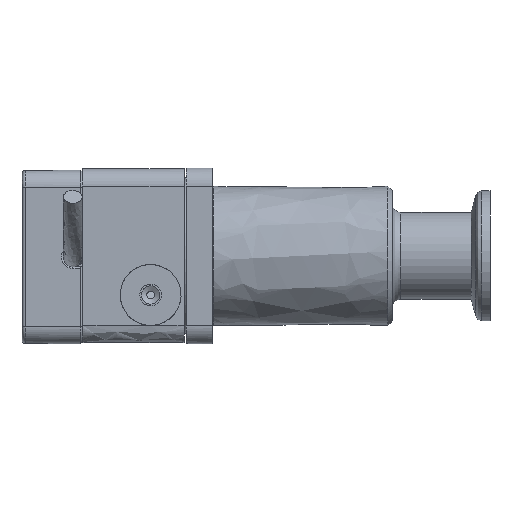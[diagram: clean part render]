
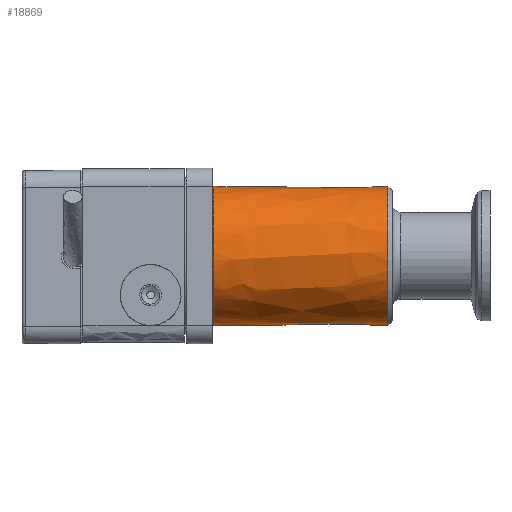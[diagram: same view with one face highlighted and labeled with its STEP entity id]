
A CAD part, left-side view. The second image highlights one B-rep face of the part: STEP entity #18869.
In plain terms, the highlighted free-form (B-spline) face has degree [2, 1] with [7, 2] control points.
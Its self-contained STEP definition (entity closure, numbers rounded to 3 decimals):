
#18284=CARTESIAN_POINT('V30',(23.5,16.,
   0.0));
#18285=VERTEX_POINT('V30',#18284);
#18293=CARTESIAN_POINT('E52',(23.5,16.,
   0.));
#18294=CARTESIAN_POINT('E52',(23.5,16.,
   27.713));
#18295=CARTESIAN_POINT('E52',(23.5,-8.,
   13.856));
#18296=CARTESIAN_POINT('E52',(23.5,-32.0,0.)
   );
#18297=CARTESIAN_POINT('E52',(23.5,-8.,
   -13.856));
#18298=CARTESIAN_POINT('E52',(23.5,16.,
   -27.713));
#18299=CARTESIAN_POINT('E52',(23.5,16.,
   0.));
#18307=(BOUNDED_CURVE()B_SPLINE_CURVE(2,(#18293,#18294,#18295,
   #18296,#18297,#18298,#18299),.CIRCULAR_ARC.,.T.,.U.)
   B_SPLINE_CURVE_WITH_KNOTS((3,2,2,3),(2.0,24.214,
   46.429,68.643),.UNSPECIFIED.)CURVE()
   GEOMETRIC_REPRESENTATION_ITEM()RATIONAL_B_SPLINE_CURVE((1.0,
   0.5,1.0,0.5,1.0,0.5,1.0)
   )REPRESENTATION_ITEM('E52'));
#18308=EDGE_CURVE('E52',#18285,#18285,#18307,.T.);
#18749=CARTESIAN_POINT('V23',(63.7,16.,
   0.0));
#18750=VERTEX_POINT('V23',#18749);
#18758=CARTESIAN_POINT('E36',(63.7,16.,
   0.0));
#18759=CARTESIAN_POINT('E36',(63.7,16.,
   -27.713));
#18760=CARTESIAN_POINT('E36',(63.7,-8.,
   -13.856));
#18761=CARTESIAN_POINT('E36',(63.7,-32.,
   0.));
#18762=CARTESIAN_POINT('E36',(63.7,-8.,
   13.856));
#18763=CARTESIAN_POINT('E36',(63.7,16.,
   27.713));
#18764=CARTESIAN_POINT('E36',(63.7,16.,
   0.0));
#18772=(BOUNDED_CURVE()B_SPLINE_CURVE(2,(#18758,#18759,#18760,
   #18761,#18762,#18763,#18764),.CIRCULAR_ARC.,.T.,.U.)
   B_SPLINE_CURVE_WITH_KNOTS((3,2,2,3),(0.0,197.184,
   394.368,591.552),.UNSPECIFIED.)CURVE()
   GEOMETRIC_REPRESENTATION_ITEM()RATIONAL_B_SPLINE_CURVE((1.0,
   0.5,1.0,0.5,1.0,0.5,1.0)
   )REPRESENTATION_ITEM('E36'));
#18773=EDGE_CURVE('E36',#18750,#18750,#18772,.T.);
#18778=CARTESIAN_POINT('F23',(22.5,16.,
   0.0));
#18779=CARTESIAN_POINT('F23',(22.5,16.,
   27.713));
#18780=CARTESIAN_POINT('F23',(22.5,-8.,
   13.856));
#18781=CARTESIAN_POINT('F23',(22.5,-32.,
   0.));
#18782=CARTESIAN_POINT('F23',(22.5,-8.,
   -13.856));
#18783=CARTESIAN_POINT('F23',(22.5,16.,
   -27.713));
#18784=CARTESIAN_POINT('F23',(22.5,16.,
   0.0));
#18785=CARTESIAN_POINT('F23',(63.7,16.,
   0.0));
#18786=CARTESIAN_POINT('F23',(63.7,16.,
   27.713));
#18787=CARTESIAN_POINT('F23',(63.7,-8.,
   13.856));
#18788=CARTESIAN_POINT('F23',(63.7,-32.,
   0.));
#18789=CARTESIAN_POINT('F23',(63.7,-8.,
   -13.856));
#18790=CARTESIAN_POINT('F23',(63.7,16.,
   -27.713));
#18791=CARTESIAN_POINT('F23',(63.7,16.,
   0.0));
#18799=(BOUNDED_SURFACE()B_SPLINE_SURFACE(2,1,((#18778,#18785),(
   #18779,#18786),(#18780,#18787),(#18781,#18788),(#18782,
   #18789),(#18783,#18790),(#18784,#18791)),.CYLINDRICAL_SURF.,
   .T.,.F.,.U.)B_SPLINE_SURFACE_WITH_KNOTS((3,2,2,3),(2,2),(0.0,
   1.345,2.691,4.036),(0.0,1.0),
   .UNSPECIFIED.)GEOMETRIC_REPRESENTATION_ITEM()
   RATIONAL_B_SPLINE_SURFACE(((1.0,1.0),(0.5,
   0.5),(1.0,1.0),(0.5,
   0.5),(1.0,1.0),(0.5,
   0.5),(1.0,1.0)))REPRESENTATION_ITEM('F23')SURFACE(
   ));
#18800=ORIENTED_EDGE('E52',*,*,#18308,.F.);
#18801=CARTESIAN_POINT('V28',(32.,16.,
   0.0));
#18802=VERTEX_POINT('V28',#18801);
#18803=CARTESIAN_POINT('E45',(32.,16.,
   0.0));
#18804=CARTESIAN_POINT('E45',(23.5,16.,
   0.0));
#18805=B_SPLINE_CURVE_WITH_KNOTS('E45',1,(#18803,#18804),
   .POLYLINE_FORM.,.F.,.U.,(2,2),(0.769,
   0.976),.UNSPECIFIED.);
#18806=EDGE_CURVE('E45',#18802,#18285,#18805,.T.);
#18807=ORIENTED_EDGE('E45',*,*,#18806,.F.);
#18808=CARTESIAN_POINT('V27',(40.,13.856,
   8.0));
#18809=VERTEX_POINT('V27',#18808);
#18810=CARTESIAN_POINT('E44',(40.,13.856,
   8.0));
#18811=CARTESIAN_POINT('E44',(39.497,13.856,
   8.0));
#18812=CARTESIAN_POINT('E44',(38.997,13.884,
   7.953));
#18813=CARTESIAN_POINT('E44',(37.123,14.085,
   7.596));
#18814=CARTESIAN_POINT('E44',(35.898,14.421,
   6.987));
#18815=CARTESIAN_POINT('E44',(33.831,15.134,
   5.282));
#18816=CARTESIAN_POINT('E44',(32.919,15.554,
   4.05));
#18817=CARTESIAN_POINT('E44',(32.141,15.928,
   1.724));
#18818=CARTESIAN_POINT('E44',(32.,16.,
   0.868));
#18819=CARTESIAN_POINT('E44',(32.,16.,
   0.0));
#18820=B_SPLINE_CURVE_WITH_KNOTS('E44',3,(#18810,#18811,#18812,
   #18813,#18814,#18815,#18816,#18817,#18818,#18819),.UNSPECIFIED.,
   .F.,.U.,(4,2,2,2,4),(0.0,0.117,0.446,
   0.806,1.0),.UNSPECIFIED.);
#18821=EDGE_CURVE('E44',#18809,#18802,#18820,.T.);
#18822=ORIENTED_EDGE('E44',*,*,#18821,.F.);
#18823=CARTESIAN_POINT('V29',(48.0,16.,0.0));
#18824=VERTEX_POINT('V29',#18823);
#18825=CARTESIAN_POINT('E48',(48.0,16.,0.0));
#18826=CARTESIAN_POINT('E48',(48.0,16.,
   0.757));
#18827=CARTESIAN_POINT('E48',(47.893,15.946,
   1.506));
#18828=CARTESIAN_POINT('E48',(47.445,15.728,
   3.051));
#18829=CARTESIAN_POINT('E48',(47.088,15.559,
   3.788));
#18830=CARTESIAN_POINT('E48',(45.594,14.912,
   6.036));
#18831=CARTESIAN_POINT('E48',(43.972,14.294,
   7.212));
#18832=CARTESIAN_POINT('E48',(41.414,13.912,
   7.906));
#18833=CARTESIAN_POINT('E48',(40.711,13.856,
   8.0));
#18834=CARTESIAN_POINT('E48',(40.,13.856,
   8.0));
#18835=B_SPLINE_CURVE_WITH_KNOTS('E48',3,(#18825,#18826,#18827,
   #18828,#18829,#18830,#18831,#18832,#18833,#18834),.UNSPECIFIED.,
   .F.,.U.,(4,2,2,2,4),(0.0,0.165,0.354,
   0.828,1.0),.UNSPECIFIED.);
#18836=EDGE_CURVE('E48',#18824,#18809,#18835,.T.);
#18837=ORIENTED_EDGE('E48',*,*,#18836,.F.);
#18838=CARTESIAN_POINT('E47',(63.7,16.,
   0.0));
#18839=CARTESIAN_POINT('E47',(48.,16.,
   0.0));
#18840=B_SPLINE_CURVE_WITH_KNOTS('E47',1,(#18838,#18839),
   .POLYLINE_FORM.,.F.,.U.,(2,2),(0.0,0.381),
   .UNSPECIFIED.);
#18841=EDGE_CURVE('E47',#18750,#18824,#18840,.T.);
#18842=ORIENTED_EDGE('E47',*,*,#18841,.F.);
#18843=ORIENTED_EDGE('F20',*,*,#18773,.F.);
#18844=ORIENTED_EDGE('E47',*,*,#18841,.T.);
#18845=CARTESIAN_POINT('E46',(32.,16.,
   0.0));
#18846=CARTESIAN_POINT('E46',(32.,16.,
   -0.453));
#18847=CARTESIAN_POINT('E46',(32.038,15.981,
   -0.903));
#18848=CARTESIAN_POINT('E46',(32.302,15.85,
   -2.448));
#18849=CARTESIAN_POINT('E46',(32.703,15.654,
   -3.41));
#18850=CARTESIAN_POINT('E46',(34.205,14.992,
   -5.839));
#18851=CARTESIAN_POINT('E46',(35.76,14.382,
   -7.042));
#18852=CARTESIAN_POINT('E46',(38.308,13.94,
   -7.859));
#18853=CARTESIAN_POINT('E46',(39.092,13.863,
   -7.988));
#18854=CARTESIAN_POINT('E46',(40.68,13.851,
   -8.01));
#18855=CARTESIAN_POINT('E46',(41.459,13.913,
   -7.905));
#18856=CARTESIAN_POINT('E46',(42.871,14.136,
   -7.499));
#18857=CARTESIAN_POINT('E46',(43.488,14.278,
   -7.229));
#18858=CARTESIAN_POINT('E46',(45.313,14.791,
   -6.158));
#18859=CARTESIAN_POINT('E46',(46.404,15.251,
   -5.048));
#18860=CARTESIAN_POINT('E46',(47.589,15.793,
   -2.729));
#18861=CARTESIAN_POINT('E46',(48.0,16.,
   -1.484));
#18862=CARTESIAN_POINT('E46',(48.0,16.,0.0));
#18863=B_SPLINE_CURVE_WITH_KNOTS('E46',3,(#18845,#18846,#18847,
   #18848,#18849,#18850,#18851,#18852,#18853,#18854,#18855,#18856,
   #18857,#18858,#18859,#18860,#18861,#18862),.UNSPECIFIED.,.F.,.U.,
   (4,2,2,2,2,2,2,2,4),(0.0,0.047,0.162,
   0.399,0.497,0.595,
   0.681,0.874,1.0),.UNSPECIFIED.);
#18864=EDGE_CURVE('E46',#18802,#18824,#18863,.T.);
#18865=ORIENTED_EDGE('E46',*,*,#18864,.F.);
#18866=ORIENTED_EDGE('E45',*,*,#18806,.T.);
#18867=EDGE_LOOP('F23',(#18800,#18807,#18822,#18837,#18842,#18843,
   #18844,#18865,#18866));
#18868=FACE_OUTER_BOUND('F23',#18867,.F.);
#18869=ADVANCED_FACE('F23',(#18868),#18799,.T.);
